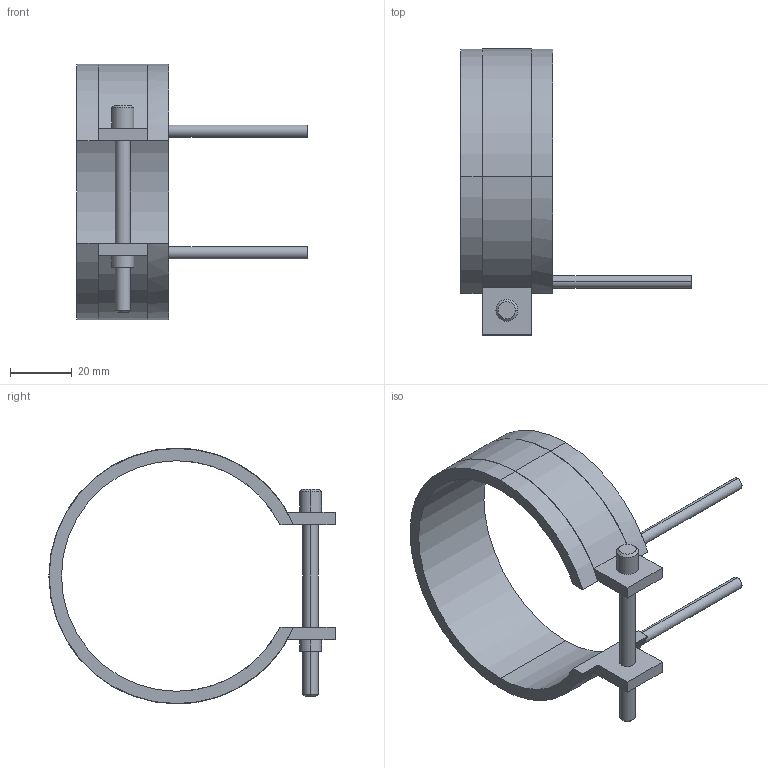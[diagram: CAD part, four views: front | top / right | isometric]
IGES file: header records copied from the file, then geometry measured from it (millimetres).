
Start section: START RECORD GO HERE.
Global section: file name: 14075030.igs; native system: DASSAULT SYSTEMES CATIA V5 R20 - www.3ds.com; preprocessor: CATIA Version 5 Release 20 ; author: Utente; organization: NB04-ASUS; date: 20210403.104531; units: millimetre
Bounding box: 75 x 93.1 x 83.2 mm (x, y, z)
Surface area: 18069.8 mm2 (no closed solid volume)
Topology: 0 solids, 0 shells, 45 faces, 232 edges, 232 vertices
Faces by surface type: revolution 28, plane 17
